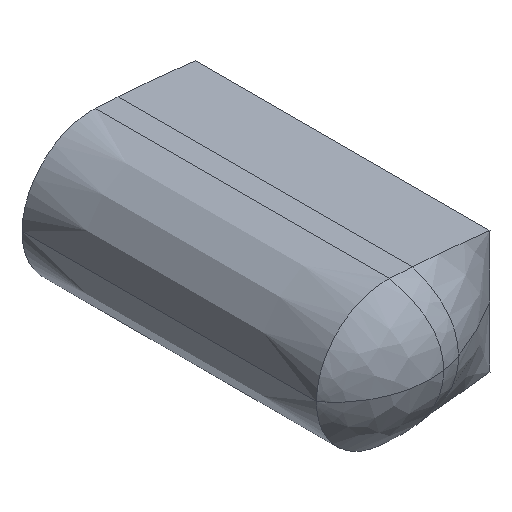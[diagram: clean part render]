
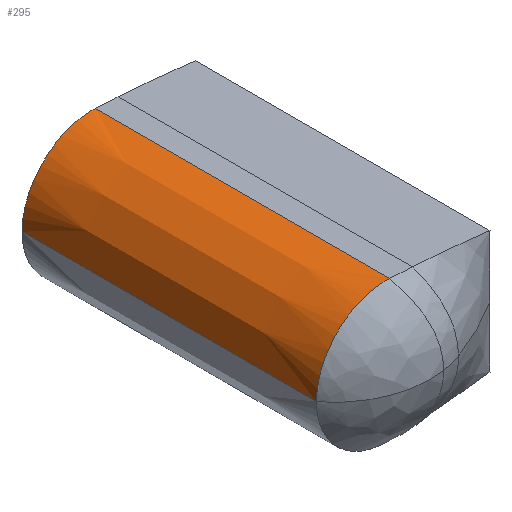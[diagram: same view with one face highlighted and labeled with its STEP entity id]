
A CAD part, isometric view. The second image highlights one B-rep face of the part: STEP entity #295.
In plain terms, the highlighted face is a extrusion surface.
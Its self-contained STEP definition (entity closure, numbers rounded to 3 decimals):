
#49=CARTESIAN_POINT('',(-4.429,7.,0.));
#55=CARTESIAN_POINT('',(-4.429,7.,0.));
#56=CARTESIAN_POINT('',(-4.429,7.,0.112));
#57=CARTESIAN_POINT('',(-4.405,7.,0.336));
#58=CARTESIAN_POINT('',(-4.269,7.,0.766));
#59=CARTESIAN_POINT('',(-3.941,7.,1.235));
#60=CARTESIAN_POINT('',(-3.362,7.,1.603));
#61=CARTESIAN_POINT('',(-2.909,7.,1.676));
#62=CARTESIAN_POINT('',(-2.686,7.,1.665));
#64=DIRECTION('',(0.,-1.,0.));
#65=VECTOR('',#64,7.);
#66=CARTESIAN_POINT('',(-2.686,7.,1.665));
#67=LINE('',#66,#65);
#68=DIRECTION('',(0.,1.,0.));
#69=VECTOR('',#68,7.);
#70=CARTESIAN_POINT('',(-4.429,0.,0.));
#71=LINE('',#70,#69);
#135=CARTESIAN_POINT('',(-4.429,0.,0.));
#146=CARTESIAN_POINT('',(-4.429,0.,0.));
#147=CARTESIAN_POINT('',(-4.429,0.,0.112));
#148=CARTESIAN_POINT('',(-4.405,0.,0.336));
#149=CARTESIAN_POINT('',(-4.269,0.,0.766));
#150=CARTESIAN_POINT('',(-3.941,0.,1.235));
#151=CARTESIAN_POINT('',(-3.362,0.,1.603));
#152=CARTESIAN_POINT('',(-2.909,0.,1.676));
#153=CARTESIAN_POINT('',(-2.686,0.,1.665));
#170=VERTEX_POINT('',#49);
#171=VERTEX_POINT('',#62);
#184=VERTEX_POINT('',#135);
#185=CARTESIAN_POINT('',(-2.686,0.,1.665));
#186=VERTEX_POINT('',#185);
#274=CARTESIAN_POINT('',(-2.686,7.,1.665));
#275=CARTESIAN_POINT('',(-2.909,7.,1.676));
#276=CARTESIAN_POINT('',(-3.362,7.,1.603));
#277=CARTESIAN_POINT('',(-3.941,7.,1.235));
#278=CARTESIAN_POINT('',(-4.269,7.,0.766));
#279=CARTESIAN_POINT('',(-4.405,7.,0.336));
#280=CARTESIAN_POINT('',(-4.429,7.,0.112));
#281=CARTESIAN_POINT('',(-4.429,7.,0.));
#283=DIRECTION('',(0.,-1.,0.));
#284=VECTOR('',#283,1.);
#285=SURFACE_OF_LINEAR_EXTRUSION('',#282,#284);
#287=ORIENTED_EDGE('',*,*,#286,.T.);
#289=ORIENTED_EDGE('',*,*,#288,.T.);
#291=ORIENTED_EDGE('',*,*,#290,.F.);
#292=ORIENTED_EDGE('',*,*,#266,.T.);
#293=EDGE_LOOP('',(#287,#289,#291,#292));
#294=FACE_OUTER_BOUND('',#293,.F.);
#295=ADVANCED_FACE('',(#294),#285,.T.);
#63=B_SPLINE_CURVE_WITH_KNOTS('',3,(#55,#56,#57,#58,#59,#60,#61,#62),
.UNSPECIFIED.,.F.,.F.,(4,1,1,1,1,4),(0.,0.125,0.25,0.5,0.75,1.),
.UNSPECIFIED.);
#154=B_SPLINE_CURVE_WITH_KNOTS('',3,(#146,#147,#148,#149,#150,#151,#152,#153),
.UNSPECIFIED.,.F.,.F.,(4,1,1,1,1,4),(0.,0.125,0.25,0.5,0.75,1.),
.UNSPECIFIED.);
#266=EDGE_CURVE('',#184,#170,#71,.T.);
#282=B_SPLINE_CURVE_WITH_KNOTS('',3,(#274,#275,#276,#277,#278,#279,#280,#281),
.UNSPECIFIED.,.F.,.F.,(4,1,1,1,1,4),(0.,0.25,0.5,0.75,0.875,1.),
.UNSPECIFIED.);
#286=EDGE_CURVE('',#170,#171,#63,.T.);
#288=EDGE_CURVE('',#171,#186,#67,.T.);
#290=EDGE_CURVE('',#184,#186,#154,.T.);
